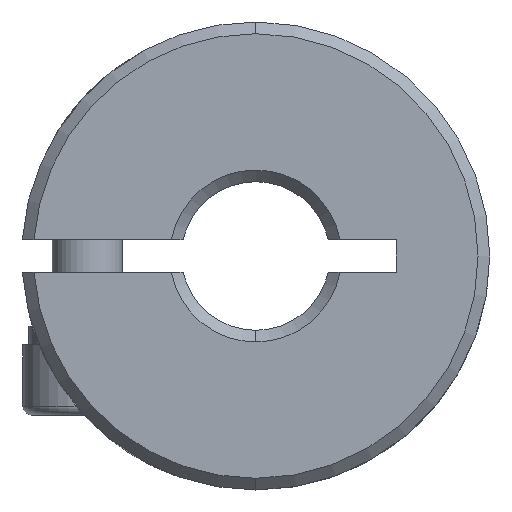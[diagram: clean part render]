
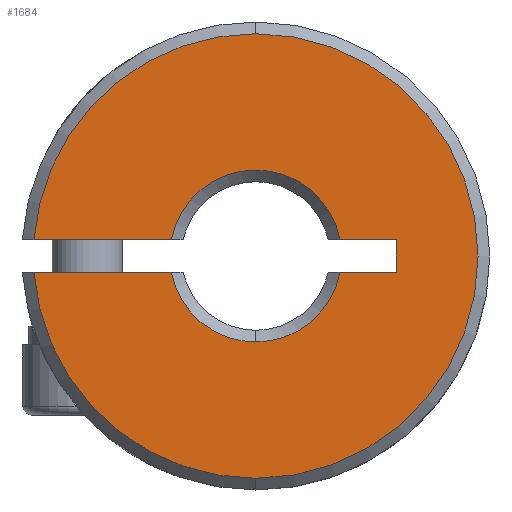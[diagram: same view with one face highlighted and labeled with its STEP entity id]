
A CAD part, front view. The second image highlights one B-rep face of the part: STEP entity #1684.
In plain terms, the highlighted planar face has unit normal (0, -1, 0).
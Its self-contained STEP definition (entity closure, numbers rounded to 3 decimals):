
#11 = ORIENTED_EDGE ( 'NONE', *, *, #2845, .F. ) ;
#52 = CIRCLE ( 'NONE', #554, 3.675 ) ;
#69 = EDGE_CURVE ( 'NONE', #3172, #1061, #2197, .T. ) ;
#114 = AXIS2_PLACEMENT_3D ( 'NONE', #3508, #618, #2939 ) ;
#132 = EDGE_LOOP ( 'NONE', ( #11, #278, #2173, #1968, #1259, #860, #3552, #1434, #2405, #402, #980 ) ) ;
#162 = DIRECTION ( 'NONE',  ( 0., -1., 0. ) ) ;
#202 = CARTESIAN_POINT ( 'NONE',  ( -3.608, 0.25, -0.7 ) ) ;
#278 = ORIENTED_EDGE ( 'NONE', *, *, #3389, .T. ) ;
#279 = VERTEX_POINT ( 'NONE', #2998 ) ;
#294 = CARTESIAN_POINT ( 'NONE',  ( 6., 0.25, 0.7 ) ) ;
#386 = DIRECTION ( 'NONE',  ( 0., 1., 0. ) ) ;
#388 = VECTOR ( 'NONE', #1305, 1000. ) ;
#402 = ORIENTED_EDGE ( 'NONE', *, *, #3661, .T. ) ;
#433 = CARTESIAN_POINT ( 'NONE',  ( 0., 0.25, -3.675 ) ) ;
#490 = CARTESIAN_POINT ( 'NONE',  ( 6., 0.25, -0.7 ) ) ;
#498 = VERTEX_POINT ( 'NONE', #294 ) ;
#535 = DIRECTION ( 'NONE',  ( 0., 0., 1. ) ) ;
#544 = DIRECTION ( 'NONE',  ( 1., 0., 0. ) ) ;
#554 = AXIS2_PLACEMENT_3D ( 'NONE', #1624, #2185, #1868 ) ;
#584 = CARTESIAN_POINT ( 'NONE',  ( -9.474, 0.25, -0.7 ) ) ;
#613 = VERTEX_POINT ( 'NONE', #2721 ) ;
#618 = DIRECTION ( 'NONE',  ( 0., -1., 0. ) ) ;
#636 = CIRCLE ( 'NONE', #707, 3.675 ) ;
#707 = AXIS2_PLACEMENT_3D ( 'NONE', #968, #386, #3256 ) ;
#711 = VERTEX_POINT ( 'NONE', #202 ) ;
#773 = CIRCLE ( 'NONE', #114, 9.5 ) ;
#804 = VECTOR ( 'NONE', #2529, 1000. ) ;
#847 = LINE ( 'NONE', #1391, #804 ) ;
#860 = ORIENTED_EDGE ( 'NONE', *, *, #2275, .T. ) ;
#968 = CARTESIAN_POINT ( 'NONE',  ( 0., 0.25, 0. ) ) ;
#980 = ORIENTED_EDGE ( 'NONE', *, *, #1700, .T. ) ;
#1019 = DIRECTION ( 'NONE',  ( 0., -1., 0. ) ) ;
#1058 = VERTEX_POINT ( 'NONE', #433 ) ;
#1061 = VERTEX_POINT ( 'NONE', #3677 ) ;
#1159 = AXIS2_PLACEMENT_3D ( 'NONE', #3641, #1019, #1289 ) ;
#1226 = FACE_OUTER_BOUND ( 'NONE', #132, .T. ) ;
#1239 = PLANE ( 'NONE',  #2834 ) ;
#1259 = ORIENTED_EDGE ( 'NONE', *, *, #69, .F. ) ;
#1289 = DIRECTION ( 'NONE',  ( 0., 0., 1. ) ) ;
#1305 = DIRECTION ( 'NONE',  ( 1., 0., 0. ) ) ;
#1391 = CARTESIAN_POINT ( 'NONE',  ( 6., 0.25, 0.7 ) ) ;
#1434 = ORIENTED_EDGE ( 'NONE', *, *, #3139, .F. ) ;
#1448 = AXIS2_PLACEMENT_3D ( 'NONE', #2338, #2821, #535 ) ;
#1495 = CARTESIAN_POINT ( 'NONE',  ( 6., 0.25, 0.7 ) ) ;
#1613 = EDGE_CURVE ( 'NONE', #3418, #613, #773, .T. ) ;
#1624 = CARTESIAN_POINT ( 'NONE',  ( 0., 0.25, 0. ) ) ;
#1637 = VERTEX_POINT ( 'NONE', #3181 ) ;
#1654 = EDGE_CURVE ( 'NONE', #498, #279, #2126, .T. ) ;
#1683 = DIRECTION ( 'NONE',  ( -1., 0., 0. ) ) ;
#1684 = ADVANCED_FACE ( 'NONE', ( #1226 ), #1239, .F. ) ;
#1700 = EDGE_CURVE ( 'NONE', #1058, #711, #636, .T. ) ;
#1765 = EDGE_CURVE ( 'NONE', #613, #1061, #2954, .T. ) ;
#1805 = AXIS2_PLACEMENT_3D ( 'NONE', #2452, #162, #3692 ) ;
#1868 = DIRECTION ( 'NONE',  ( 0., 0., 1. ) ) ;
#1934 = LINE ( 'NONE', #490, #388 ) ;
#1935 = CIRCLE ( 'NONE', #1448, 3.675 ) ;
#1938 = CARTESIAN_POINT ( 'NONE',  ( -3.608, 0.25, 0.7 ) ) ;
#1968 = ORIENTED_EDGE ( 'NONE', *, *, #1765, .T. ) ;
#2126 = LINE ( 'NONE', #1495, #3682 ) ;
#2173 = ORIENTED_EDGE ( 'NONE', *, *, #1613, .T. ) ;
#2185 = DIRECTION ( 'NONE',  ( 0., 1., 0. ) ) ;
#2197 = LINE ( 'NONE', #3436, #3673 ) ;
#2266 = CARTESIAN_POINT ( 'NONE',  ( 6., 0.25, -0.7 ) ) ;
#2275 = EDGE_CURVE ( 'NONE', #3172, #279, #52, .T. ) ;
#2308 = VECTOR ( 'NONE', #544, 1000. ) ;
#2338 = CARTESIAN_POINT ( 'NONE',  ( 0., 0.25, 0. ) ) ;
#2393 = DIRECTION ( 'NONE',  ( -1., 0., 0. ) ) ;
#2405 = ORIENTED_EDGE ( 'NONE', *, *, #2501, .F. ) ;
#2452 = CARTESIAN_POINT ( 'NONE',  ( 0., 0.25, 0. ) ) ;
#2494 = VERTEX_POINT ( 'NONE', #3147 ) ;
#2501 = EDGE_CURVE ( 'NONE', #2494, #1637, #3096, .T. ) ;
#2529 = DIRECTION ( 'NONE',  ( 0., 0., 1. ) ) ;
#2694 = CARTESIAN_POINT ( 'NONE',  ( 0., 0.25, -9.5 ) ) ;
#2707 = DIRECTION ( 'NONE',  ( 0., 1., 0. ) ) ;
#2721 = CARTESIAN_POINT ( 'NONE',  ( 0., 0.25, 9.5 ) ) ;
#2821 = DIRECTION ( 'NONE',  ( 0., 1., 0. ) ) ;
#2834 = AXIS2_PLACEMENT_3D ( 'NONE', #2993, #2707, #3007 ) ;
#2845 = EDGE_CURVE ( 'NONE', #3188, #711, #1934, .T. ) ;
#2939 = DIRECTION ( 'NONE',  ( 0., 0., 1. ) ) ;
#2954 = CIRCLE ( 'NONE', #1159, 9.5 ) ;
#2993 = CARTESIAN_POINT ( 'NONE',  ( -50., 0.25, 12. ) ) ;
#2998 = CARTESIAN_POINT ( 'NONE',  ( 3.608, 0.25, 0.7 ) ) ;
#3007 = DIRECTION ( 'NONE',  ( 0., 0., 1. ) ) ;
#3096 = LINE ( 'NONE', #2266, #2308 ) ;
#3109 = CIRCLE ( 'NONE', #1805, 9.5 ) ;
#3139 = EDGE_CURVE ( 'NONE', #1637, #498, #847, .T. ) ;
#3147 = CARTESIAN_POINT ( 'NONE',  ( 3.608, 0.25, -0.7 ) ) ;
#3172 = VERTEX_POINT ( 'NONE', #1938 ) ;
#3181 = CARTESIAN_POINT ( 'NONE',  ( 6., 0.25, -0.7 ) ) ;
#3188 = VERTEX_POINT ( 'NONE', #584 ) ;
#3256 = DIRECTION ( 'NONE',  ( 0., 0., 1. ) ) ;
#3389 = EDGE_CURVE ( 'NONE', #3188, #3418, #3109, .T. ) ;
#3418 = VERTEX_POINT ( 'NONE', #2694 ) ;
#3436 = CARTESIAN_POINT ( 'NONE',  ( 6., 0.25, 0.7 ) ) ;
#3508 = CARTESIAN_POINT ( 'NONE',  ( 0., 0.25, 0. ) ) ;
#3552 = ORIENTED_EDGE ( 'NONE', *, *, #1654, .F. ) ;
#3641 = CARTESIAN_POINT ( 'NONE',  ( 0., 0.25, 0. ) ) ;
#3661 = EDGE_CURVE ( 'NONE', #2494, #1058, #1935, .T. ) ;
#3673 = VECTOR ( 'NONE', #1683, 1000. ) ;
#3677 = CARTESIAN_POINT ( 'NONE',  ( -9.474, 0.25, 0.7 ) ) ;
#3682 = VECTOR ( 'NONE', #2393, 1000. ) ;
#3692 = DIRECTION ( 'NONE',  ( 0., 0., 1. ) ) ;
